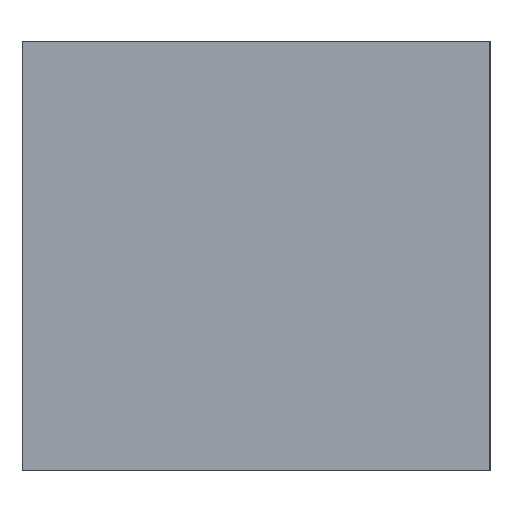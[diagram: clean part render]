
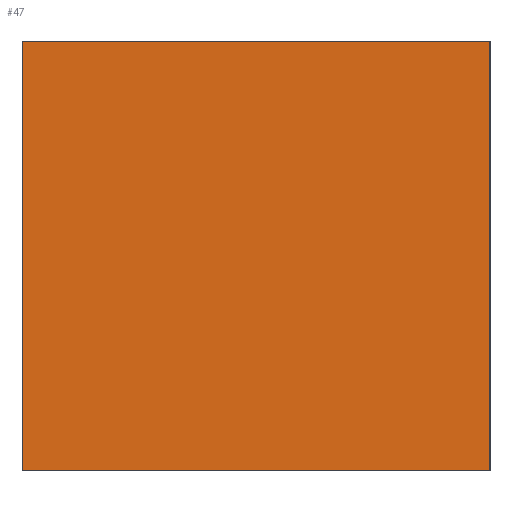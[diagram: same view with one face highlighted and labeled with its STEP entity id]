
A CAD part, left-side view. The second image highlights one B-rep face of the part: STEP entity #47.
In plain terms, the highlighted planar face has unit normal (-1, 0, 0).
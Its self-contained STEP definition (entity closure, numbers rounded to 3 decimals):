
#47 = ADVANCED_FACE('',(#48),#62,.F.);
#48 = FACE_BOUND('',#49,.F.);
#49 = EDGE_LOOP('',(#50,#85,#113,#141));
#50 = ORIENTED_EDGE('',*,*,#51,.F.);
#51 = EDGE_CURVE('',#52,#54,#56,.T.);
#52 = VERTEX_POINT('',#53);
#53 = CARTESIAN_POINT('',(-4.95,-4.4,0.));
#54 = VERTEX_POINT('',#55);
#55 = CARTESIAN_POINT('',(-4.95,-4.4,5.5));
#56 = SURFACE_CURVE('',#57,(#61,#73),.PCURVE_S1.);
#57 = LINE('',#58,#59);
#58 = CARTESIAN_POINT('',(-4.95,-4.4,0.));
#59 = VECTOR('',#60,1.);
#60 = DIRECTION('',(0.,0.,1.));
#61 = PCURVE('',#62,#67);
#62 = PLANE('',#63);
#63 = AXIS2_PLACEMENT_3D('',#64,#65,#66);
#64 = CARTESIAN_POINT('',(-4.95,-4.4,0.));
#65 = DIRECTION('',(1.,0.,0.));
#66 = DIRECTION('',(0.,0.,1.));
#67 = DEFINITIONAL_REPRESENTATION('',(#68),#72);
#68 = LINE('',#69,#70);
#69 = CARTESIAN_POINT('',(0.,0.));
#70 = VECTOR('',#71,1.);
#71 = DIRECTION('',(1.,0.));
#72 = ( GEOMETRIC_REPRESENTATION_CONTEXT(2)
PARAMETRIC_REPRESENTATION_CONTEXT() REPRESENTATION_CONTEXT('2D SPACE',''
  ) );
#73 = PCURVE('',#74,#79);
#74 = PLANE('',#75);
#75 = AXIS2_PLACEMENT_3D('',#76,#77,#78);
#76 = CARTESIAN_POINT('',(-4.95,-4.4,0.));
#77 = DIRECTION('',(0.,1.,0.));
#78 = DIRECTION('',(0.,0.,1.));
#79 = DEFINITIONAL_REPRESENTATION('',(#80),#84);
#80 = LINE('',#81,#82);
#81 = CARTESIAN_POINT('',(0.,0.));
#82 = VECTOR('',#83,1.);
#83 = DIRECTION('',(1.,0.));
#84 = ( GEOMETRIC_REPRESENTATION_CONTEXT(2)
PARAMETRIC_REPRESENTATION_CONTEXT() REPRESENTATION_CONTEXT('2D SPACE',''
  ) );
#85 = ORIENTED_EDGE('',*,*,#86,.T.);
#86 = EDGE_CURVE('',#52,#87,#89,.T.);
#87 = VERTEX_POINT('',#88);
#88 = CARTESIAN_POINT('',(-4.95,1.6,0.));
#89 = SURFACE_CURVE('',#90,(#94,#101),.PCURVE_S1.);
#90 = LINE('',#91,#92);
#91 = CARTESIAN_POINT('',(-4.95,-4.4,0.));
#92 = VECTOR('',#93,1.);
#93 = DIRECTION('',(0.,1.,0.));
#94 = PCURVE('',#62,#95);
#95 = DEFINITIONAL_REPRESENTATION('',(#96),#100);
#96 = LINE('',#97,#98);
#97 = CARTESIAN_POINT('',(0.,0.));
#98 = VECTOR('',#99,1.);
#99 = DIRECTION('',(0.,-1.));
#100 = ( GEOMETRIC_REPRESENTATION_CONTEXT(2)
PARAMETRIC_REPRESENTATION_CONTEXT() REPRESENTATION_CONTEXT('2D SPACE',''
  ) );
#101 = PCURVE('',#102,#107);
#102 = PLANE('',#103);
#103 = AXIS2_PLACEMENT_3D('',#104,#105,#106);
#104 = CARTESIAN_POINT('',(-4.95,-4.4,0.));
#105 = DIRECTION('',(0.,0.,1.));
#106 = DIRECTION('',(1.,0.,0.));
#107 = DEFINITIONAL_REPRESENTATION('',(#108),#112);
#108 = LINE('',#109,#110);
#109 = CARTESIAN_POINT('',(0.,0.));
#110 = VECTOR('',#111,1.);
#111 = DIRECTION('',(0.,1.));
#112 = ( GEOMETRIC_REPRESENTATION_CONTEXT(2)
PARAMETRIC_REPRESENTATION_CONTEXT() REPRESENTATION_CONTEXT('2D SPACE',''
  ) );
#113 = ORIENTED_EDGE('',*,*,#114,.T.);
#114 = EDGE_CURVE('',#87,#115,#117,.T.);
#115 = VERTEX_POINT('',#116);
#116 = CARTESIAN_POINT('',(-4.95,1.6,5.5));
#117 = SURFACE_CURVE('',#118,(#122,#129),.PCURVE_S1.);
#118 = LINE('',#119,#120);
#119 = CARTESIAN_POINT('',(-4.95,1.6,0.));
#120 = VECTOR('',#121,1.);
#121 = DIRECTION('',(0.,0.,1.));
#122 = PCURVE('',#62,#123);
#123 = DEFINITIONAL_REPRESENTATION('',(#124),#128);
#124 = LINE('',#125,#126);
#125 = CARTESIAN_POINT('',(0.,-6.));
#126 = VECTOR('',#127,1.);
#127 = DIRECTION('',(1.,0.));
#128 = ( GEOMETRIC_REPRESENTATION_CONTEXT(2)
PARAMETRIC_REPRESENTATION_CONTEXT() REPRESENTATION_CONTEXT('2D SPACE',''
  ) );
#129 = PCURVE('',#130,#135);
#130 = PLANE('',#131);
#131 = AXIS2_PLACEMENT_3D('',#132,#133,#134);
#132 = CARTESIAN_POINT('',(-4.95,1.6,0.));
#133 = DIRECTION('',(0.,1.,0.));
#134 = DIRECTION('',(0.,0.,1.));
#135 = DEFINITIONAL_REPRESENTATION('',(#136),#140);
#136 = LINE('',#137,#138);
#137 = CARTESIAN_POINT('',(0.,0.));
#138 = VECTOR('',#139,1.);
#139 = DIRECTION('',(1.,0.));
#140 = ( GEOMETRIC_REPRESENTATION_CONTEXT(2)
PARAMETRIC_REPRESENTATION_CONTEXT() REPRESENTATION_CONTEXT('2D SPACE',''
  ) );
#141 = ORIENTED_EDGE('',*,*,#142,.F.);
#142 = EDGE_CURVE('',#54,#115,#143,.T.);
#143 = SURFACE_CURVE('',#144,(#148,#155),.PCURVE_S1.);
#144 = LINE('',#145,#146);
#145 = CARTESIAN_POINT('',(-4.95,-4.4,5.5));
#146 = VECTOR('',#147,1.);
#147 = DIRECTION('',(0.,1.,0.));
#148 = PCURVE('',#62,#149);
#149 = DEFINITIONAL_REPRESENTATION('',(#150),#154);
#150 = LINE('',#151,#152);
#151 = CARTESIAN_POINT('',(5.5,0.));
#152 = VECTOR('',#153,1.);
#153 = DIRECTION('',(0.,-1.));
#154 = ( GEOMETRIC_REPRESENTATION_CONTEXT(2)
PARAMETRIC_REPRESENTATION_CONTEXT() REPRESENTATION_CONTEXT('2D SPACE',''
  ) );
#155 = PCURVE('',#156,#161);
#156 = PLANE('',#157);
#157 = AXIS2_PLACEMENT_3D('',#158,#159,#160);
#158 = CARTESIAN_POINT('',(-4.95,-4.4,5.5));
#159 = DIRECTION('',(0.,0.,1.));
#160 = DIRECTION('',(1.,0.,0.));
#161 = DEFINITIONAL_REPRESENTATION('',(#162),#166);
#162 = LINE('',#163,#164);
#163 = CARTESIAN_POINT('',(0.,0.));
#164 = VECTOR('',#165,1.);
#165 = DIRECTION('',(0.,1.));
#166 = ( GEOMETRIC_REPRESENTATION_CONTEXT(2)
PARAMETRIC_REPRESENTATION_CONTEXT() REPRESENTATION_CONTEXT('2D SPACE',''
  ) );
